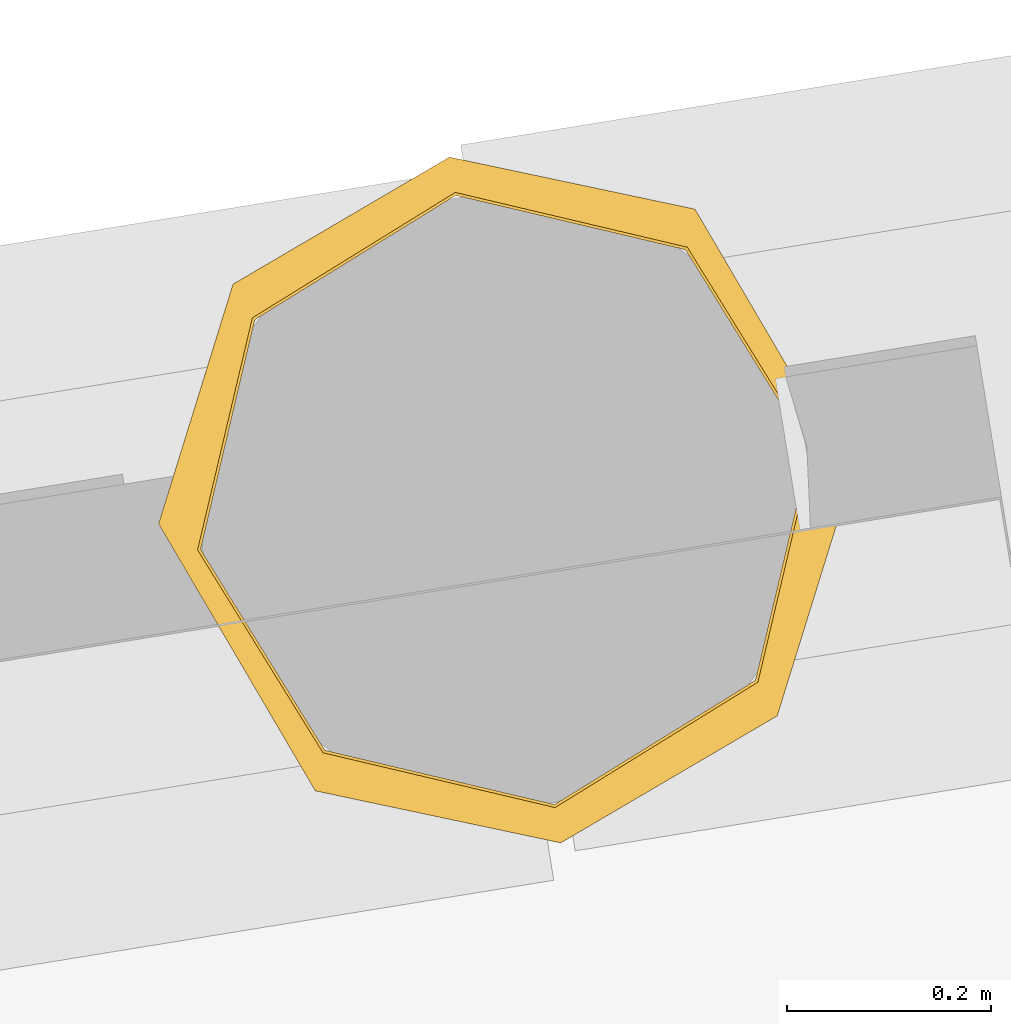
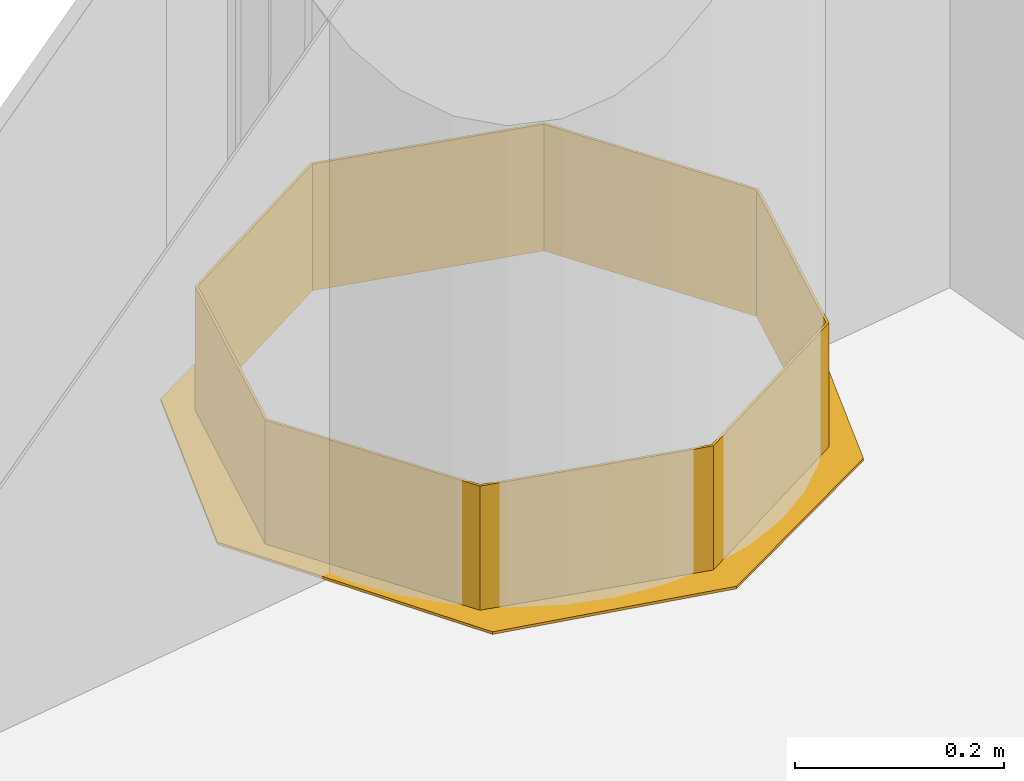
# One storey, part 30 of 38: 1 railing.
"""IFC2X3 building model written with IfcOpenShell, lengths in millimetres."""

from ifc_helpers import new_model, entity, si_unit, converted_unit, derived_unit, direction, frame, origin, origin_with_axes, place, context, subcontext, project, spatial, faceted_brep, material, type_object, element, save


model = new_model("IFC2X3")

# Units and contexts
model_context = context("Model", 3, precision=0.01, world=origin(), true_north=direction((6.12323399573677e-17, 1.0)))
plan_context = context("Plan", 3, precision=1e-05, world=origin_with_axes())
body_context = subcontext(model_context, "Body", "Model", "MODEL_VIEW")
ifc_project = project(units=[converted_unit("PLANEANGLEUNIT", "DEGREE", entity("IfcPositiveLengthMeasure", 0.0174532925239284), si_unit("PLANEANGLEUNIT", "RADIAN"), dimensions=[0, 0, 0, 0, 0, 0, 0]), si_unit("AREAUNIT", "SQUARE_METRE"), si_unit("LENGTHUNIT", "METRE", prefix="MILLI"), si_unit("MASSUNIT", "GRAM", prefix="KILO"), si_unit("POWERUNIT", "WATT"), si_unit("PRESSUREUNIT", "PASCAL", prefix="KILO"), si_unit("FORCEUNIT", "NEWTON", prefix="KILO"), si_unit("ELECTRICVOLTAGEUNIT", "VOLT"), si_unit("ELECTRICCURRENTUNIT", "AMPERE"), si_unit("THERMODYNAMICTEMPERATUREUNIT", "DEGREE_CELSIUS"), si_unit("TIMEUNIT", "SECOND"), si_unit("VOLUMEUNIT", "CUBIC_METRE"), derived_unit("LINEARVELOCITYUNIT", [(si_unit("LENGTHUNIT", "METRE"), 1), (si_unit("TIMEUNIT", "SECOND"), -1)]), derived_unit("VOLUMETRICFLOWRATEUNIT", [(si_unit("VOLUMEUNIT", "CUBIC_METRE"), 1), (si_unit("TIMEUNIT", "SECOND"), -1)]), derived_unit("THERMALTRANSMITTANCEUNIT", [(si_unit("POWERUNIT", "WATT"), 1), (si_unit("THERMODYNAMICTEMPERATUREUNIT", "KELVIN"), -1), (si_unit("AREAUNIT", "SQUARE_METRE"), -1)]), derived_unit("SOUNDPRESSUREUNIT", [(si_unit("PRESSUREUNIT", "PASCAL"), 1)])], contexts=[model_context, plan_context])

# Site, building, storey
site_placement = place(None, frame((-0.00071070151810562, 0.00438415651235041, 0.0), z_axis=(0.0, 0.0, 1.0), x_axis=(-0.160236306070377, 0.987078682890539, 0.0)))
site = spatial("IfcSite", under=ifc_project, at=site_placement, Name="Default", CompositionType="ELEMENT")
building_placement = place(site_placement, origin_with_axes())
building = spatial("IfcBuilding", under=site, at=building_placement, Name="TOO", CompositionType="ELEMENT")
storey_placement = place(building_placement, frame((0.0, 0.0, 50999.9999999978), z_axis=(0.0, 0.0, 1.0), x_axis=(1.0, 0.0, 0.0)))
storey = spatial("IfcBuildingStorey", under=building, at=storey_placement, Name="Nivå D-H01", CompositionType="ELEMENT", Elevation=50999.9999999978)

# Railing
ifc_material = material(Name="<Unnamed>")
railing_type = type_object("IfcRailingType", Name="Railing:A287-S04", PredefinedType="NOTDEFINED")
railing_placement = place(storey_placement, frame((779536.02437183, -603842.625391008, 2.0), z_axis=(0.0, 0.0, 1.0), x_axis=(1.0, 0.0, 0.0)))
element("IfcRailing", 1, at=railing_placement, inside=storey, type_object=railing_type, material=ifc_material, Name="Railing:A287-S04", ObjectType="Railing:A287-S04", PredefinedType="NOTDEFINED", context=body_context, shape_type="Brep", body=[
    faceted_brep([(39.595272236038, 340.144892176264, 148.0), (125.92770397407, 555.812460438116, 148.0), (103.59459603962, 501.895568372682, 148.0), (59.7428568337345, 388.785464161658, 148.0), (81.261488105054, 447.978676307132, 148.0), (58.9283801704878, 394.061784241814, 148.0), (36.595272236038, 340.144892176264, 148.0), (58.9283801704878, 286.22800011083, 148.0), (81.261488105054, 232.311108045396, 148.0), (103.59459603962, 178.394215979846, 148.0), (125.92770397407, 124.477323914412, 148.0), (59.7428570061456, 291.504319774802, 148.0), (83.8221482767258, 446.91801613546, 148.0), (105.935586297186, 500.304578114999, 148.0), (128.049024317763, 553.691140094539, 148.0), (179.844596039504, 578.145568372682, 148.0), (233.761488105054, 600.478676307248, 148.0), (287.678380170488, 622.811784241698, 148.0), (341.595272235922, 645.144892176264, 148.0), (181.435586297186, 575.804578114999, 148.0), (234.822148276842, 597.91801613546, 148.0), (288.208710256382, 620.031454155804, 148.0), (341.595272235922, 642.144892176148, 148.0), (394.981834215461, 620.03145415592, 148.0), (448.368396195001, 597.91801613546, 148.0), (501.754958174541, 575.804578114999, 148.0), (555.14152015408, 553.691140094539, 148.0), (395.512164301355, 622.811784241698, 148.0), (449.429056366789, 600.478676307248, 148.0), (503.345948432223, 578.145568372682, 148.0), (557.262840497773, 555.812460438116, 148.0), (577.254958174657, 500.304578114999, 148.0), (599.368396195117, 446.91801613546, 148.0), (623.447687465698, 388.785464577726, 148.0), (643.595272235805, 340.144892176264, 148.0), (579.595948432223, 501.895568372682, 148.0), (601.929056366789, 447.978676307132, 148.0), (624.262164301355, 394.061784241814, 148.0), (646.595272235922, 340.144892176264, 148.0), (624.262164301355, 286.22800011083, 148.0), (601.929056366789, 232.311108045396, 148.0), (579.595948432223, 178.394215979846, 148.0), (557.262840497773, 124.477323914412, 148.0), (623.447687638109, 291.50432019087, 148.0), (599.368396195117, 233.371768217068, 148.0), (577.254958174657, 179.985206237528, 148.0), (555.14152015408, 126.598644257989, 148.0), (503.345948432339, 102.144215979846, 148.0), (449.429056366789, 79.81110804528, 148.0), (395.512164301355, 57.4780001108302, 148.0), (341.595272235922, 35.1448921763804, 148.0), (501.754958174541, 104.485206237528, 148.0), (448.368396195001, 82.3717682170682, 148.0), (394.981834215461, 60.2583301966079, 148.0), (341.595272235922, 38.1448921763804, 148.0), (288.208710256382, 60.2583301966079, 148.0), (234.822148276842, 82.3717682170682, 148.0), (181.435586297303, 104.485206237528, 148.0), (128.049024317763, 126.598644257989, 148.0), (179.84459603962, 102.144215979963, 148.0), (105.935586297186, 179.985206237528, 148.0), (233.761488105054, 79.81110804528, 148.0), (287.678380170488, 57.4780001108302, 148.0), (83.8221482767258, 233.371768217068, 148.0), (555.141520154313, 553.691140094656, 0.0), (577.254958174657, 500.304578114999, 0.0), (599.368396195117, 446.91801613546, 0.0), (621.481834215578, 393.53145415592, 0.0), (643.595272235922, 340.144892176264, 0.0), (341.595272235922, 642.144892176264, 0.0), (394.981834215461, 620.03145415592, 0.0), (448.368396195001, 597.91801613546, 0.0), (501.754958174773, 575.804578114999, 0.0), (288.208710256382, 620.03145415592, 0.0), (128.04902431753, 553.691140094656, 0.0), (181.435586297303, 575.804578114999, 0.0), (234.822148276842, 597.91801613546, 0.0), (105.935586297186, 500.304578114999, 0.0), (39.5952722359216, 340.144892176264, 0.0), (61.7087102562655, 393.53145415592, 0.0), (83.8221482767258, 446.91801613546, 0.0), (1.59527223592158, 340.144892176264, 0.0), (23.7795142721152, 397.409021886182, 0.0), (45.9637563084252, 454.6731515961, 0.0), (68.1479983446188, 511.937281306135, 0.0), (90.3322403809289, 569.201411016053, 0.0), (23.7795142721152, 282.880762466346, 0.0), (45.9637563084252, 225.616632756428, 0.0), (68.1479983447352, 168.352503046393, 0.0), (90.3322403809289, 111.088373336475, 0.0), (61.7087102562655, 286.758330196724, 0.0), (83.8221482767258, 233.371768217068, 0.0), (105.935586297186, 179.985206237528, 0.0), (128.04902431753, 126.598644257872, 0.0), (145.305187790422, 83.715098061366, 0.0), (200.278135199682, 56.3418227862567, 0.0), (255.251082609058, 28.9685475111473, 0.0), (310.224030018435, 1.59527223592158, 0.0), (181.435586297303, 104.485206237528, 0.0), (234.822148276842, 82.3717682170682, 0.0), (288.208710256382, 60.2583301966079, 0.0), (341.595272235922, 38.144892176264, 0.0), (380.882598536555, 28.9685475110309, 0.0), (451.541167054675, 56.3418227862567, 0.0), (522.199735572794, 83.7150980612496, 0.0), (592.858304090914, 111.088373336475, 0.0), (394.981834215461, 60.2583301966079, 0.0), (448.368396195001, 82.3717682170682, 0.0), (501.754958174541, 104.485206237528, 0.0), (555.141520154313, 126.598644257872, 0.0), (577.254958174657, 179.985206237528, 0.0), (599.368396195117, 233.371768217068, 0.0), (621.481834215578, 286.758330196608, 0.0), (615.042546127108, 168.352503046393, 0.0), (637.226788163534, 225.616632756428, 0.0), (659.411030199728, 282.880762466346, 0.0), (681.595272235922, 340.144892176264, 0.0), (659.411030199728, 397.409021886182, 0.0), (637.226788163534, 454.6731515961, 0.0), (615.042546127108, 511.937281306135, 0.0), (592.858304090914, 569.201411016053, 0.0), (537.885356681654, 596.574686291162, 0.0), (482.912409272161, 623.947961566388, 0.0), (427.939461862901, 651.321236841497, 0.0), (372.966514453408, 678.694512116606, 0.0), (160.990808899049, 596.574686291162, 0.0), (231.649377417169, 623.947961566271, 0.0), (302.307945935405, 651.321236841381, 0.0), (681.595272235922, 340.144892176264, 3.0), (592.858304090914, 569.201411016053, 3.0), (615.042546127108, 511.937281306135, 3.0), (637.226788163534, 454.6731515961, 3.0), (653.180009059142, 413.493141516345, 3.0), (537.885356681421, 596.574686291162, 3.0), (372.966514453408, 678.694512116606, 3.0), (427.939461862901, 651.321236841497, 3.0), (482.912409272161, 623.947961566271, 3.0), (90.3322403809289, 569.201411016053, 3.0), (160.990808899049, 596.574686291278, 3.0), (231.649377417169, 623.947961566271, 3.0), (302.307945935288, 651.321236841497, 3.0), (1.59527223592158, 340.144892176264, 3.0), (30.0105352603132, 413.493141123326, 3.0), (45.9637563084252, 454.6731515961, 3.0), (68.1479983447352, 511.937281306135, 3.0), (36.595272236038, 340.144892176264, 3.0), (57.4668867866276, 390.533427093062, 3.0), (30.0105354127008, 266.796642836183, 3.0), (45.9637563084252, 225.616632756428, 3.0), (68.1479983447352, 168.352503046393, 3.0), (90.3322403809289, 111.088373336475, 3.0), (57.4668869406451, 289.756356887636, 3.0), (81.261488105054, 447.978676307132, 3.0), (103.59459603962, 501.895568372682, 3.0), (125.92770397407, 555.812460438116, 3.0), (179.84459603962, 578.145568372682, 3.0), (233.761488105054, 600.478676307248, 3.0), (287.678380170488, 622.811784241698, 3.0), (341.595272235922, 645.144892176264, 3.0), (395.512164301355, 622.811784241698, 3.0), (449.429056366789, 600.478676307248, 3.0), (503.345948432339, 578.145568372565, 3.0), (557.262840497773, 555.812460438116, 3.0), (581.057441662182, 498.367211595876, 3.0), (604.852042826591, 440.921962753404, 3.0), (625.723657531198, 390.533427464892, 3.0), (646.595272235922, 340.144892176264, 3.0), (653.180009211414, 266.796643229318, 3.0), (637.226788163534, 225.616632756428, 3.0), (615.042546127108, 168.352503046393, 3.0), (592.858304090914, 111.088373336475, 3.0), (625.723657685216, 289.75635725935, 3.0), (601.929056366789, 232.311108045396, 3.0), (579.595948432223, 178.394215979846, 3.0), (557.262840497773, 124.477323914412, 3.0), (503.345948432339, 102.144215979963, 3.0), (449.429056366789, 79.81110804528, 3.0), (395.512164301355, 57.4780001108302, 3.0), (341.595272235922, 35.1448921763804, 3.0), (522.199735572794, 83.715098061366, 3.0), (451.541167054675, 56.3418227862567, 3.0), (380.882598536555, 28.9685475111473, 3.0), (310.224030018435, 1.59527223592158, 3.0), (287.678380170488, 57.4780001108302, 3.0), (233.761488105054, 79.81110804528, 3.0), (179.84459603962, 102.144215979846, 3.0), (125.92770397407, 124.477323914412, 3.0), (145.305187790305, 83.7150980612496, 3.0), (102.133102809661, 181.922572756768, 3.0), (200.278135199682, 56.3418227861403, 3.0), (255.251082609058, 28.9685475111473, 3.0), (78.3385016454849, 239.367821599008, 3.0)], [[[0, 1, 2]], [[1, 0, 3]], [[0, 2, 4]], [[0, 4, 5]], [[0, 5, 6]], [[0, 6, 7]], [[0, 7, 8]], [[0, 8, 9]], [[0, 9, 10]], [[10, 11, 0]], [[1, 3, 12]], [[1, 12, 13]], [[1, 13, 14]], [[14, 15, 1]], [[14, 16, 15]], [[14, 17, 16]], [[14, 18, 17]], [[18, 14, 19]], [[18, 19, 20]], [[18, 20, 21]], [[18, 21, 22]], [[18, 22, 23]], [[18, 23, 24]], [[18, 24, 25]], [[18, 25, 26]], [[26, 27, 18]], [[26, 28, 27]], [[26, 29, 28]], [[26, 30, 29]], [[30, 26, 31]], [[30, 31, 32]], [[30, 32, 33]], [[30, 33, 34]], [[34, 35, 30]], [[34, 36, 35]], [[34, 37, 36]], [[34, 38, 37]], [[34, 39, 38]], [[34, 40, 39]], [[34, 41, 40]], [[34, 42, 41]], [[42, 34, 43]], [[42, 43, 44]], [[42, 44, 45]], [[42, 45, 46]], [[46, 47, 42]], [[46, 48, 47]], [[46, 49, 48]], [[46, 50, 49]], [[50, 46, 51]], [[50, 51, 52]], [[50, 52, 53]], [[50, 53, 54]], [[50, 54, 55]], [[50, 55, 56]], [[50, 56, 57]], [[50, 57, 58]], [[58, 10, 59]], [[10, 58, 60]], [[58, 59, 61]], [[58, 61, 62]], [[58, 62, 50]], [[10, 60, 63]], [[10, 63, 11]], [[32, 31, 26, 64, 65, 66, 67, 68, 34, 33]], [[23, 22, 69, 70, 71, 72, 64, 26, 25, 24]], [[73, 69, 22, 21, 20, 19, 14, 74, 75, 76]], [[77, 74, 14, 13, 12, 3, 0, 78, 79, 80]], [[78, 81, 82]], [[78, 82, 83]], [[78, 83, 84]], [[78, 84, 85]], [[85, 79, 78]], [[78, 86, 81]], [[78, 87, 86]], [[78, 88, 87]], [[78, 89, 88]], [[89, 78, 90]], [[89, 90, 91]], [[89, 91, 92]], [[89, 92, 93]], [[93, 94, 89]], [[93, 95, 94]], [[93, 96, 95]], [[93, 97, 96]], [[97, 93, 98]], [[97, 98, 99]], [[97, 99, 100]], [[97, 100, 101]], [[101, 102, 97]], [[101, 103, 102]], [[101, 104, 103]], [[101, 105, 104]], [[105, 101, 106]], [[105, 106, 107]], [[105, 107, 108]], [[105, 108, 109]], [[105, 109, 110]], [[105, 110, 111]], [[105, 111, 112]], [[105, 112, 68]], [[68, 113, 105]], [[68, 114, 113]], [[68, 115, 114]], [[68, 116, 115]], [[68, 117, 116]], [[68, 118, 117]], [[68, 119, 118]], [[68, 120, 119]], [[120, 68, 67]], [[120, 67, 66]], [[120, 66, 65]], [[120, 65, 64]], [[64, 121, 120]], [[64, 122, 121]], [[64, 123, 122]], [[64, 124, 123]], [[124, 64, 72]], [[124, 72, 71]], [[124, 71, 70]], [[124, 70, 69]], [[85, 69, 73]], [[69, 85, 125]], [[69, 125, 126]], [[69, 126, 127]], [[69, 127, 124]], [[85, 73, 76]], [[85, 76, 75]], [[85, 75, 74]], [[85, 74, 77]], [[85, 77, 80]], [[85, 80, 79]], [[128, 116, 117, 118, 119, 120, 129, 130, 131, 132]], [[133, 129, 120, 121, 122, 123, 124, 134, 135, 136]], [[126, 125, 85, 137, 138, 139, 140, 134, 124, 127]], [[83, 82, 81, 141, 142, 143, 144, 137, 85, 84]], [[145, 137, 144]], [[137, 145, 146]], [[145, 144, 143]], [[145, 143, 142]], [[145, 142, 141]], [[145, 141, 147]], [[145, 147, 148]], [[145, 148, 149]], [[145, 149, 150]], [[150, 151, 145]], [[137, 146, 152]], [[137, 152, 153]], [[137, 153, 154]], [[137, 154, 155]], [[137, 155, 156]], [[137, 156, 157]], [[137, 157, 158]], [[158, 138, 137]], [[158, 139, 138]], [[158, 140, 139]], [[158, 134, 140]], [[134, 158, 159]], [[134, 159, 160]], [[134, 160, 161]], [[134, 161, 162]], [[162, 135, 134]], [[162, 136, 135]], [[162, 133, 136]], [[162, 129, 133]], [[129, 162, 163]], [[129, 163, 164]], [[129, 164, 165]], [[129, 165, 166]], [[166, 130, 129]], [[166, 131, 130]], [[166, 132, 131]], [[166, 128, 132]], [[166, 167, 128]], [[166, 168, 167]], [[166, 169, 168]], [[166, 170, 169]], [[170, 166, 171]], [[170, 171, 172]], [[170, 172, 173]], [[170, 173, 174]], [[170, 174, 175]], [[170, 175, 176]], [[170, 176, 177]], [[170, 177, 178]], [[178, 179, 170]], [[178, 180, 179]], [[178, 181, 180]], [[178, 182, 181]], [[182, 178, 183]], [[182, 183, 184]], [[182, 184, 185]], [[182, 185, 186]], [[186, 150, 187]], [[150, 186, 188]], [[186, 187, 189]], [[186, 189, 190]], [[186, 190, 182]], [[150, 188, 191]], [[150, 191, 151]], [[35, 36, 37, 38, 166, 165, 164, 163, 162, 30]], [[30, 162, 161, 160, 159, 158, 18, 27, 28, 29]], [[154, 153, 152, 146, 145, 6, 5, 4, 2, 1]], [[17, 18, 158, 157, 156, 155, 154, 1, 15, 16]], [[63, 60, 58, 93, 92, 91, 90, 78, 0, 11]], [[55, 54, 101, 100, 99, 98, 93, 58, 57, 56]], [[106, 101, 54, 53, 52, 51, 46, 109, 108, 107]], [[110, 109, 46, 45, 44, 43, 34, 68, 112, 111]], [[141, 81, 86, 87, 88, 89, 150, 149, 148, 147]], [[187, 150, 89, 94, 95, 96, 97, 182, 190, 189]], [[103, 104, 105, 170, 179, 180, 181, 182, 97, 102]], [[114, 115, 116, 128, 167, 168, 169, 170, 105, 113]], [[9, 8, 7, 6, 145, 151, 191, 188, 186, 10]], [[10, 186, 185, 184, 183, 178, 50, 62, 61, 59]], [[174, 173, 172, 171, 166, 38, 39, 40, 41, 42]], [[49, 50, 178, 177, 176, 175, 174, 42, 47, 48]]]),
])

save(model, "model.ifc")
